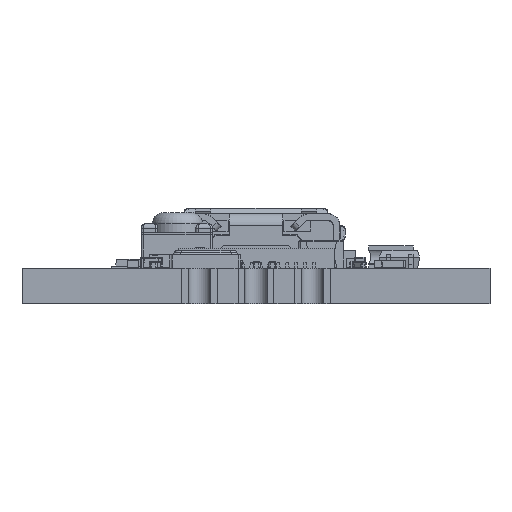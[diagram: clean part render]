
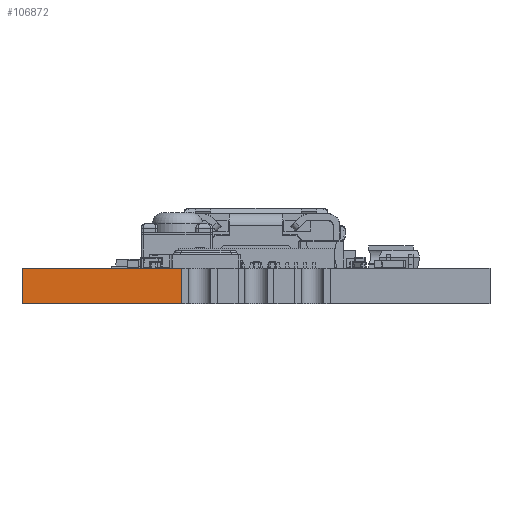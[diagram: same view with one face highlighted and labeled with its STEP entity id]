
A CAD part, front view. The second image highlights one B-rep face of the part: STEP entity #106872.
In plain terms, the highlighted planar face has unit normal (0, -1, 0).
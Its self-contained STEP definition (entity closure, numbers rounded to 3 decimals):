
#10888=FACE_OUTER_BOUND('',#17242,.T.);
#17242=EDGE_LOOP('',(#89719,#89720,#89721,#89722));
#29922=LINE('',#190158,#39646);
#29924=LINE('',#190162,#39648);
#29925=LINE('',#190164,#39649);
#29926=LINE('',#190165,#39650);
#39646=VECTOR('',#132618,10.);
#39648=VECTOR('',#132622,10.);
#39649=VECTOR('',#132623,10.);
#39650=VECTOR('',#132624,10.);
#49371=VERTEX_POINT('',#190155);
#49372=VERTEX_POINT('',#190157);
#49373=VERTEX_POINT('',#190161);
#49374=VERTEX_POINT('',#190163);
#63352=EDGE_CURVE('',#49372,#49371,#29922,.T.);
#63354=EDGE_CURVE('',#49373,#49371,#29924,.T.);
#63355=EDGE_CURVE('',#49373,#49374,#29925,.T.);
#63356=EDGE_CURVE('',#49372,#49374,#29926,.T.);
#89719=ORIENTED_EDGE('',*,*,#63352,.T.);
#89720=ORIENTED_EDGE('',*,*,#63354,.F.);
#89721=ORIENTED_EDGE('',*,*,#63355,.T.);
#89722=ORIENTED_EDGE('',*,*,#63356,.F.);
#101567=PLANE('',#114240);
#106872=ADVANCED_FACE('',(#10888),#101567,.F.);
#114240=AXIS2_PLACEMENT_3D('',#190160,#132620,#132621);
#132618=DIRECTION('',(0.,0.,1.));
#132620=DIRECTION('center_axis',(0.,1.,0.));
#132621=DIRECTION('ref_axis',(0.,0.,1.));
#132622=DIRECTION('',(1.,0.,0.));
#132623=DIRECTION('',(0.,0.,-1.));
#132624=DIRECTION('',(-1.,0.,0.));
#190155=CARTESIAN_POINT('',(-3.34,-51.,1.6));
#190157=CARTESIAN_POINT('',(-3.34,-51.,0.));
#190158=CARTESIAN_POINT('',(-3.34,-51.,0.8));
#190160=CARTESIAN_POINT('Origin',(0.,-51.,0.8));
#190161=CARTESIAN_POINT('',(-10.5,-51.,1.6));
#190162=CARTESIAN_POINT('',(0.,-51.,1.6));
#190163=CARTESIAN_POINT('',(-10.5,-51.,0.));
#190164=CARTESIAN_POINT('',(-10.5,-51.,0.8));
#190165=CARTESIAN_POINT('',(0.,-51.,0.));
